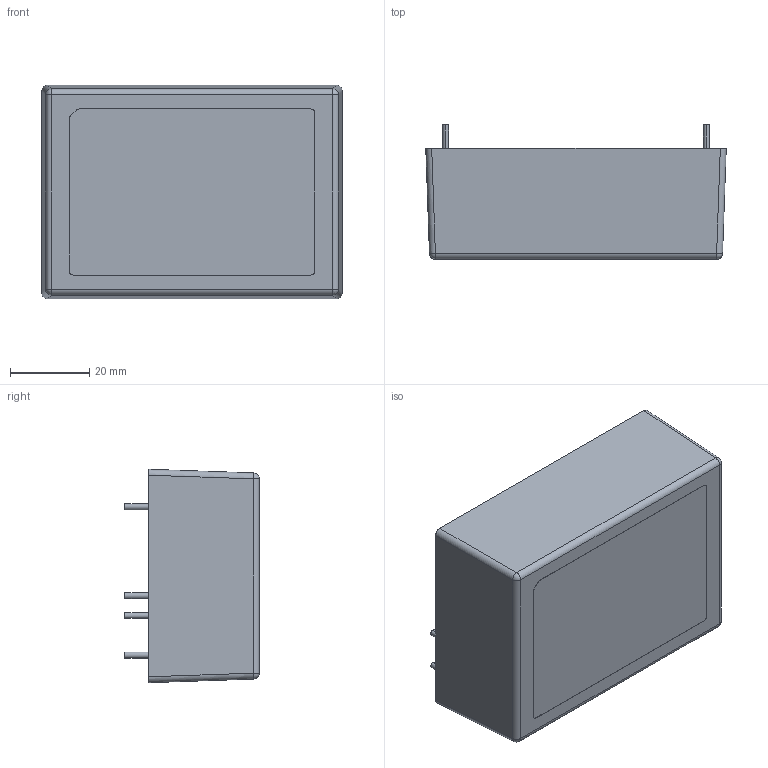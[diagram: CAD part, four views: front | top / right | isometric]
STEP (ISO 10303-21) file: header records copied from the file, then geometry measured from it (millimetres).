
FILE_DESCRIPTION (( 'STEP AP214' ), '1' );
FILE_NAME ('AMF-60S051(20240312).STEP', '2024-03-12T03:25:48', ( '' ), ( '' ), 'SwSTEP 2.0', 'SolidWorks 2021', '' );
FILE_SCHEMA (( 'AUTOMOTIVE_DESIGN' ));
Length unit declared in the file: millimetre
Products named in the file (3): AMF-60S051(20240312); AMF-60 PCB BASE((3D Model-STEPﾀﾉ)_20230928; AMF-60 PCB CASE(3D Model-STEPﾀﾉ)_20230928
Assembly tree (2 placements, depth 2):
  AMF-60S051(20240312)
    AMF-60 PCB CASE(3D Model-STEPﾀﾉ)_20230928
    AMF-60 PCB BASE((3D Model-STEPﾀﾉ)_20230928
Bounding box: 76 x 34 x 54 mm (x, y, z)
Volume: 107308.6 mm3; surface area: 23876.6 mm2
Topology: 2 solids, 2 shells, 177 faces, 481 edges, 311 vertices
Faces by surface type: plane 110, cylinder 59, sphere 4, bspline 4
Entity records: 5727 total; most frequent: CARTESIAN_POINT 1158, ORIENTED_EDGE 954, DIRECTION 907, EDGE_CURVE 477, VECTOR 355, LINE 355, VERTEX_POINT 311, AXIS2_PLACEMENT_3D 276
